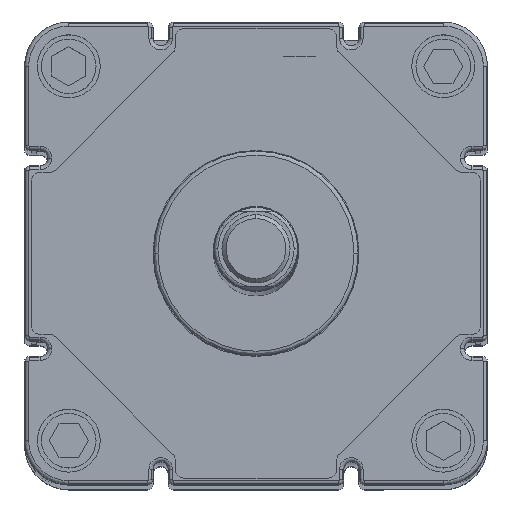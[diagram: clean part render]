
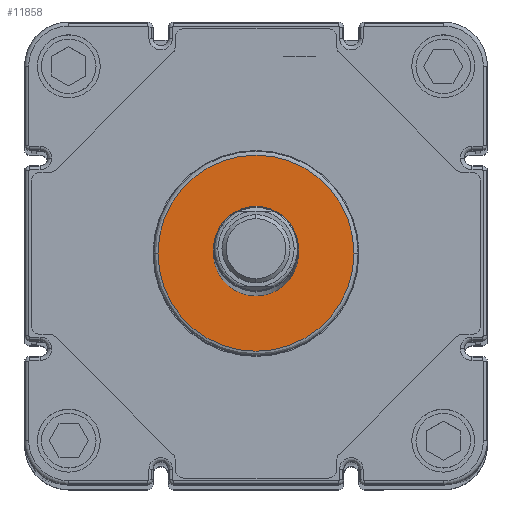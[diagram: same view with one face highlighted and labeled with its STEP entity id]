
A CAD part, top view. The second image highlights one B-rep face of the part: STEP entity #11858.
In plain terms, the highlighted planar face has unit normal (0, 0, 1).
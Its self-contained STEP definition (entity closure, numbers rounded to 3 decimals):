
#4200=CARTESIAN_POINT('',(-51.3,22.5,858.5));
#4201=VERTEX_POINT('',#4200);
#4209=CARTESIAN_POINT('',(6.3,22.5,858.5));
#4210=VERTEX_POINT('',#4209);
#4211=CARTESIAN_POINT('',(-22.5,22.5,858.5));
#4212=DIRECTION('',(0.0,0.0,-1.0));
#4213=DIRECTION('',(-1.0,0.0,0.0));
#4214=AXIS2_PLACEMENT_3D('',#4211,#4212,#4213);
#4215=CIRCLE('',#4214,28.8);
#4216=EDGE_CURVE('',#4201,#4210,#4215,.T.);
#5075=CARTESIAN_POINT('',(-22.5,35.,858.5));
#5076=VERTEX_POINT('',#5075);
#5092=CARTESIAN_POINT('',(-22.5,10.,858.5));
#5093=VERTEX_POINT('',#5092);
#5100=CARTESIAN_POINT('',(-22.5,22.5,858.5));
#5101=DIRECTION('',(0.0,0.0,-1.0));
#5102=DIRECTION('',(0.0,1.0,0.0));
#5103=AXIS2_PLACEMENT_3D('',#5100,#5101,#5102);
#5104=CIRCLE('',#5103,12.5);
#5105=EDGE_CURVE('',#5076,#5093,#5104,.T.);
#10942=CARTESIAN_POINT('',(-22.5,22.5,858.5));
#10943=DIRECTION('',(0.0,0.0,-1.0));
#10944=DIRECTION('',(0.0,1.0,0.0));
#10945=AXIS2_PLACEMENT_3D('',#10942,#10943,#10944);
#10946=CIRCLE('',#10945,12.5);
#10947=EDGE_CURVE('',#5093,#5076,#10946,.T.);
#11823=CARTESIAN_POINT('',(-22.5,22.5,858.5));
#11824=DIRECTION('',(0.0,0.0,-1.0));
#11825=DIRECTION('',(-1.0,0.0,0.0));
#11826=AXIS2_PLACEMENT_3D('',#11823,#11824,#11825);
#11827=CIRCLE('',#11826,28.8);
#11828=EDGE_CURVE('',#4210,#4201,#11827,.T.);
#11845=CARTESIAN_POINT('',(21.25,-21.25,858.5));
#11846=DIRECTION('',(0.0,0.0,1.0));
#11847=DIRECTION('',(1.0,0.0,0.0));
#11848=AXIS2_PLACEMENT_3D('',#11845,#11846,#11847);
#11849=PLANE('',#11848);
#11850=ORIENTED_EDGE('',*,*,#11828,.F.);
#11851=ORIENTED_EDGE('',*,*,#4216,.F.);
#11852=EDGE_LOOP('',(#11850,#11851));
#11853=FACE_OUTER_BOUND('',#11852,.T.);
#11854=ORIENTED_EDGE('',*,*,#5105,.T.);
#11855=ORIENTED_EDGE('',*,*,#10947,.T.);
#11856=EDGE_LOOP('',(#11854,#11855));
#11857=FACE_BOUND('',#11856,.T.);
#11858=ADVANCED_FACE('',(#11853,#11857),#11849,.T.);
